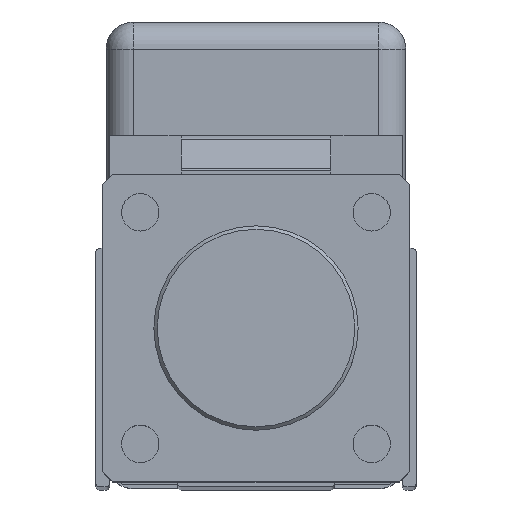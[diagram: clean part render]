
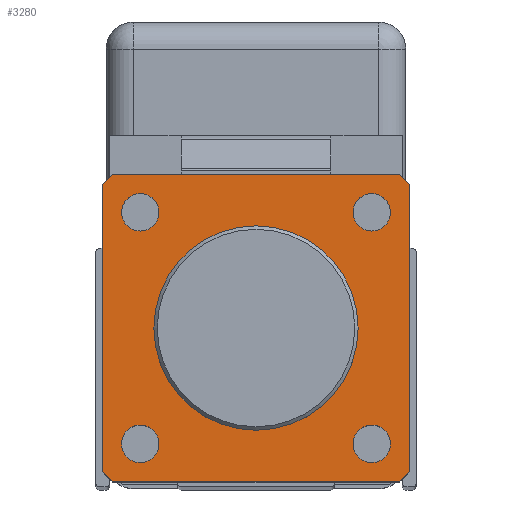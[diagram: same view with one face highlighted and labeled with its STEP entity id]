
A CAD part, top view. The second image highlights one B-rep face of the part: STEP entity #3280.
In plain terms, the highlighted planar face has unit normal (0, 0, 1).
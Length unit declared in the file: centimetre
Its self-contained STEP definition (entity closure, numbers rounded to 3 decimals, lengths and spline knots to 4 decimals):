
#460=VECTOR('',#4170,1.);
#463=VECTOR('',#4174,1.);
#465=VECTOR('',#4177,1.);
#468=VECTOR('',#4181,1.);
#471=VECTOR('',#4185,1.);
#474=VECTOR('',#4189,1.);
#478=VECTOR('',#4194,1.);
#481=VECTOR('',#4198,1.);
#703=LINE('',#5219,#460);
#706=LINE('',#5225,#463);
#708=LINE('',#5229,#465);
#711=LINE('',#5235,#468);
#714=LINE('',#5240,#471);
#717=LINE('',#5247,#474);
#721=LINE('',#5255,#478);
#724=LINE('',#5260,#481);
#912=CIRCLE('',#3540,1.5);
#925=CIRCLE('',#3564,0.275);
#927=CIRCLE('',#3567,0.275);
#928=CIRCLE('',#3569,0.275);
#929=CIRCLE('',#3571,0.275);
#1207=VERTEX_POINT('',#5161);
#1234=VERTEX_POINT('',#5220);
#1235=VERTEX_POINT('',#5221);
#1236=VERTEX_POINT('',#5226);
#1237=VERTEX_POINT('',#5230);
#1239=VERTEX_POINT('',#5236);
#1240=VERTEX_POINT('',#5241);
#1243=VERTEX_POINT('',#5248);
#1246=VERTEX_POINT('',#5256);
#1247=VERTEX_POINT('',#5263);
#1249=VERTEX_POINT('',#5268);
#1250=VERTEX_POINT('',#5271);
#1251=VERTEX_POINT('',#5274);
#1563=EDGE_CURVE('',#1207,#1207,#912,.T.);
#1592=EDGE_CURVE('',#1234,#1235,#703,.T.);
#1595=EDGE_CURVE('',#1235,#1236,#706,.T.);
#1597=EDGE_CURVE('',#1236,#1237,#708,.T.);
#1600=EDGE_CURVE('',#1237,#1239,#711,.T.);
#1603=EDGE_CURVE('',#1239,#1240,#714,.T.);
#1607=EDGE_CURVE('',#1240,#1243,#717,.T.);
#1611=EDGE_CURVE('',#1243,#1246,#721,.T.);
#1614=EDGE_CURVE('',#1246,#1234,#724,.T.);
#1615=EDGE_CURVE('',#1247,#1247,#925,.T.);
#1617=EDGE_CURVE('',#1249,#1249,#927,.T.);
#1618=EDGE_CURVE('',#1250,#1250,#928,.T.);
#1619=EDGE_CURVE('',#1251,#1251,#929,.T.);
#2255=ORIENTED_EDGE('',*,*,#1563,.T.);
#2256=ORIENTED_EDGE('',*,*,#1619,.F.);
#2257=ORIENTED_EDGE('',*,*,#1618,.F.);
#2258=ORIENTED_EDGE('',*,*,#1617,.F.);
#2259=ORIENTED_EDGE('',*,*,#1615,.F.);
#2260=ORIENTED_EDGE('',*,*,#1592,.F.);
#2261=ORIENTED_EDGE('',*,*,#1614,.F.);
#2262=ORIENTED_EDGE('',*,*,#1611,.F.);
#2263=ORIENTED_EDGE('',*,*,#1607,.F.);
#2264=ORIENTED_EDGE('',*,*,#1603,.F.);
#2265=ORIENTED_EDGE('',*,*,#1600,.F.);
#2266=ORIENTED_EDGE('',*,*,#1597,.F.);
#2267=ORIENTED_EDGE('',*,*,#1595,.F.);
#2797=EDGE_LOOP('',(#2255));
#2798=EDGE_LOOP('',(#2256));
#2799=EDGE_LOOP('',(#2257));
#2800=EDGE_LOOP('',(#2258));
#2801=EDGE_LOOP('',(#2259));
#2802=EDGE_LOOP('',(#2260,#2261,#2262,#2263,#2264,#2265,#2266,#2267));
#3072=FACE_BOUND('',#2797,.T.);
#3073=FACE_BOUND('',#2798,.T.);
#3074=FACE_BOUND('',#2799,.T.);
#3075=FACE_BOUND('',#2800,.T.);
#3076=FACE_BOUND('',#2801,.T.);
#3077=FACE_BOUND('',#2802,.T.);
#3280=ADVANCED_FACE('',(#3072,#3073,#3074,#3075,#3076,#3077),#5605,.T.);
#3540=AXIS2_PLACEMENT_3D('',#5160,#4125,#4126);
#3564=AXIS2_PLACEMENT_3D('',#5262,#4201,#4202);
#3567=AXIS2_PLACEMENT_3D('',#5267,#4207,#4208);
#3569=AXIS2_PLACEMENT_3D('',#5270,#4211,#4212);
#3571=AXIS2_PLACEMENT_3D('',#5273,#4215,#4216);
#3572=AXIS2_PLACEMENT_3D('',#5275,#4217,$);
#4125=DIRECTION('',(0.,0.,-1.));
#4126=DIRECTION('',(1.5,0.,0.));
#4170=DIRECTION('',(1.,0.,0.));
#4174=DIRECTION('',(0.707,-0.707,0.));
#4177=DIRECTION('',(0.,-1.,0.));
#4181=DIRECTION('',(-0.707,-0.707,0.));
#4185=DIRECTION('',(-1.,0.,0.));
#4189=DIRECTION('',(-0.707,0.707,0.));
#4194=DIRECTION('',(0.,1.,0.));
#4198=DIRECTION('',(0.707,0.707,0.));
#4201=DIRECTION('',(0.,0.,1.));
#4202=DIRECTION('',(0.275,0.,0.));
#4207=DIRECTION('',(0.,0.,1.));
#4208=DIRECTION('',(0.275,0.,0.));
#4211=DIRECTION('',(0.,0.,1.));
#4212=DIRECTION('',(0.275,0.,0.));
#4215=DIRECTION('',(0.,0.,1.));
#4216=DIRECTION('',(0.275,0.,0.));
#4217=DIRECTION('',(0.,0.,1.));
#5160=CARTESIAN_POINT('',(0.,0.,28.));
#5161=CARTESIAN_POINT('',(1.5,0.,28.));
#5219=CARTESIAN_POINT('',(2.11,2.26,28.));
#5220=CARTESIAN_POINT('',(-2.11,2.26,28.));
#5221=CARTESIAN_POINT('',(2.11,2.26,28.));
#5225=CARTESIAN_POINT('',(2.26,2.11,28.));
#5226=CARTESIAN_POINT('',(2.26,2.11,28.));
#5229=CARTESIAN_POINT('',(2.26,-2.11,28.));
#5230=CARTESIAN_POINT('',(2.26,-2.11,28.));
#5235=CARTESIAN_POINT('',(2.11,-2.26,28.));
#5236=CARTESIAN_POINT('',(2.11,-2.26,28.));
#5240=CARTESIAN_POINT('',(-2.11,-2.26,28.));
#5241=CARTESIAN_POINT('',(-2.11,-2.26,28.));
#5247=CARTESIAN_POINT('',(-2.26,-2.11,28.));
#5248=CARTESIAN_POINT('',(-2.26,-2.11,28.));
#5255=CARTESIAN_POINT('',(-2.26,2.11,28.));
#5256=CARTESIAN_POINT('',(-2.26,2.11,28.));
#5260=CARTESIAN_POINT('',(-2.11,2.26,28.));
#5262=CARTESIAN_POINT('',(-1.7,-1.7,28.));
#5263=CARTESIAN_POINT('',(-1.425,-1.7,28.));
#5267=CARTESIAN_POINT('',(-1.7,1.7,28.));
#5268=CARTESIAN_POINT('',(-1.425,1.7,28.));
#5270=CARTESIAN_POINT('',(1.7,1.7,28.));
#5271=CARTESIAN_POINT('',(1.975,1.7,28.));
#5273=CARTESIAN_POINT('',(1.7,-1.7,28.));
#5274=CARTESIAN_POINT('',(1.975,-1.7,28.));
#5275=CARTESIAN_POINT('',(0.,0.,28.));
#5605=PLANE('',#3572);
